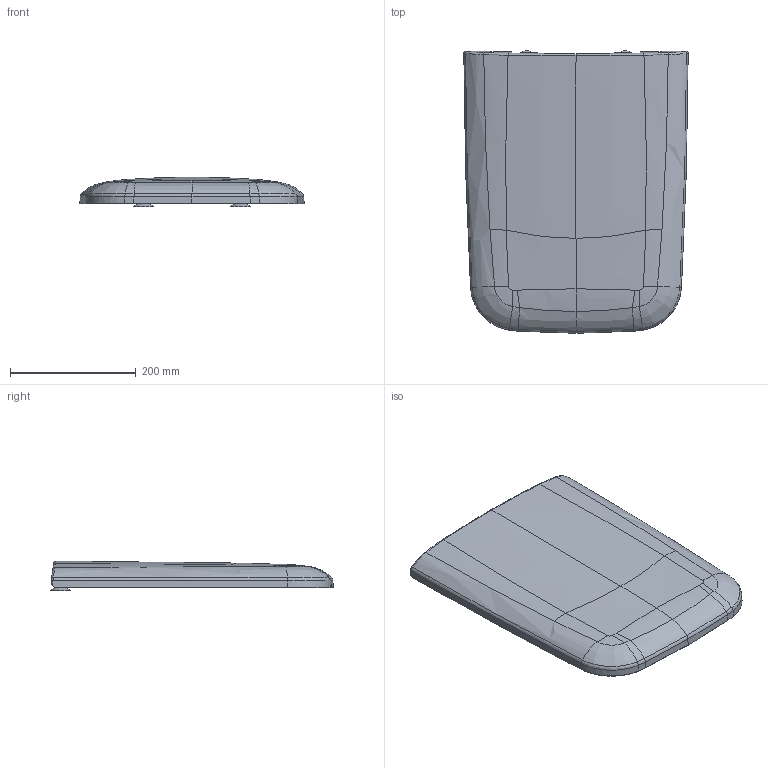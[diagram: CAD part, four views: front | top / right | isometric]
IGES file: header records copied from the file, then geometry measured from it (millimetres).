
Global section: file name: 571910000; native system: Autodesk Inventor 2018; preprocessor: unknown; author: JANAN; date: 20210106.152150; units: millimetre
Bounding box: 356.39 x 449 x 47.09 mm (x, y, z)
Volume: 860752 mm3; surface area: 363432.1 mm2
Topology: 3 solids, 3 shells, 224 faces, 530 edges, 313 vertices
Faces by surface type: bspline 224
